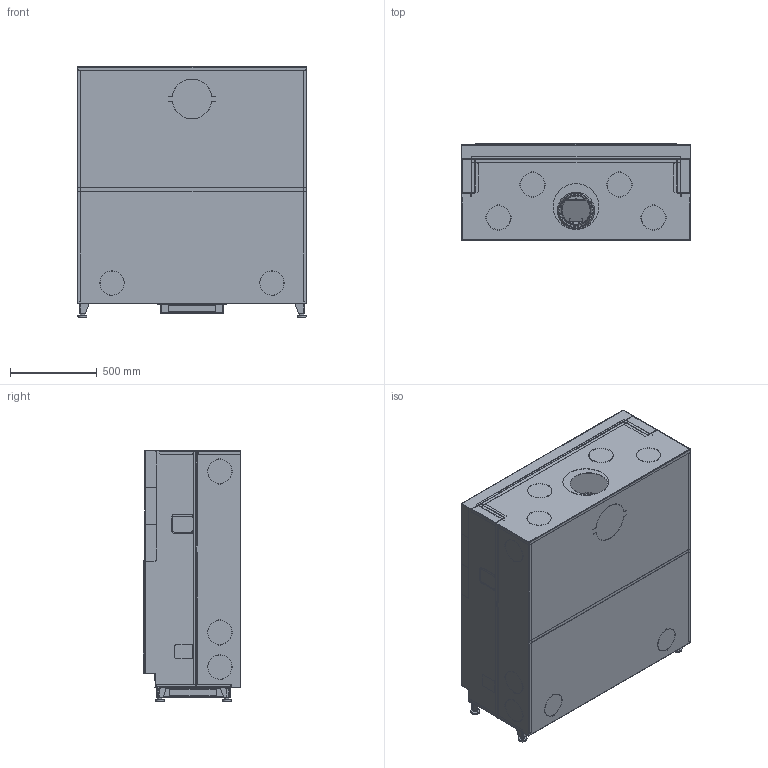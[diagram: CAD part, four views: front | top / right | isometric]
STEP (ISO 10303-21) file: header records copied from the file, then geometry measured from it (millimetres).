
FILE_DESCRIPTION(/* description */ (''),/* implementation_level */ '2;1');
FILE_NAME(/* name */ 'C:\ADSK_DM_WS\CAD_3D\03 Geraete\Violino 65x116\Zeichnungen\Violino 65x116 Abgang hinten mit Mantel.stp',/* time_stamp */ '2022-11-18T10:12:52+01:00',/* author */ ('CPI'),/* organization */ (''),/* preprocessor_version */ 'ST-DEVELOPER v18.1',/* originating_system */ 'Autodesk Inventor 2022',/* authorisation */ '');
FILE_SCHEMA (('AUTOMOTIVE_DESIGN { 1 0 10303 214 3 1 1 }'));
Products named in the file (8): 2022-04371; 2022-04347; 2022-04359; 2022-04357; 2022-04355; 2022-04353; 2022-04351; 2022-04369
Assembly tree (7 placements, depth 2):
  2022-04371
    2022-04347
    2022-04359
    2022-04357
    2022-04355
    2022-04353
    2022-04351
    2022-04369
Bounding box: 1326 x 564.5 x 1448 mm (x, y, z)
Volume: 97844653.1 mm3; surface area: 30118818.3 mm2
Topology: 16 solids, 19 shells, 7022 faces, 19441 edges, 12315 vertices
Faces by surface type: plane 4040, cylinder 2590, bspline 212, cone 140, torus 40
Full cylindrical faces by diameter (mm): 4.5 x4, 4.8 x12, 5.6 x1, 7 x2, 8 x12, 9.5 x12, 10 x7, 11.4 x6, 16 x18, 30 x4, 163 x1, 333 x1, 339 x1
Entity records: 237888 total; most frequent: CARTESIAN_POINT 48677, ORIENTED_EDGE 38910, DIRECTION 37637, EDGE_CURVE 19463, LINE 13161, VECTOR 13161, VERTEX_POINT 12315, AXIS2_PLACEMENT_3D 12238
